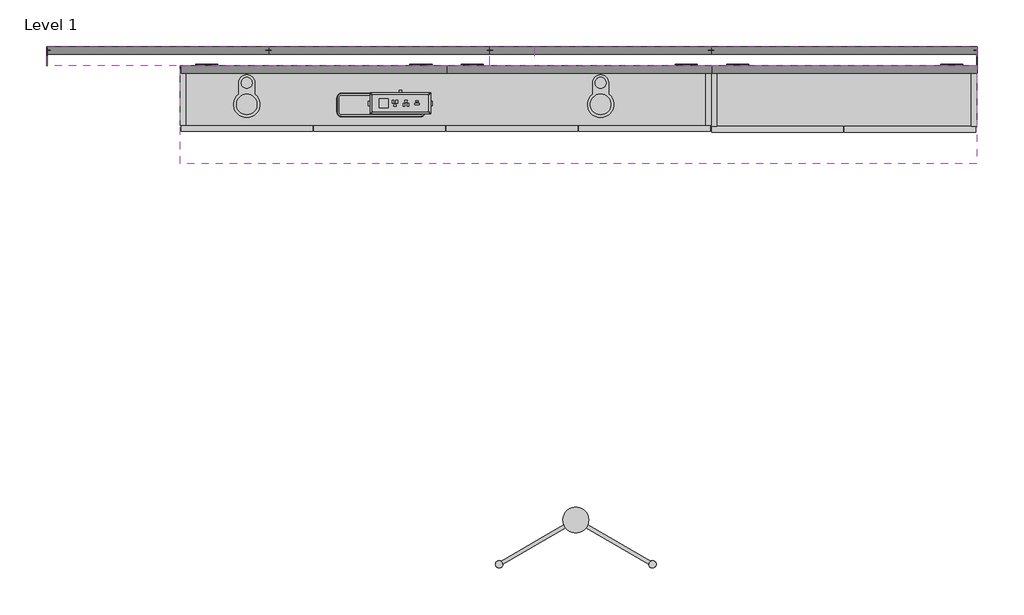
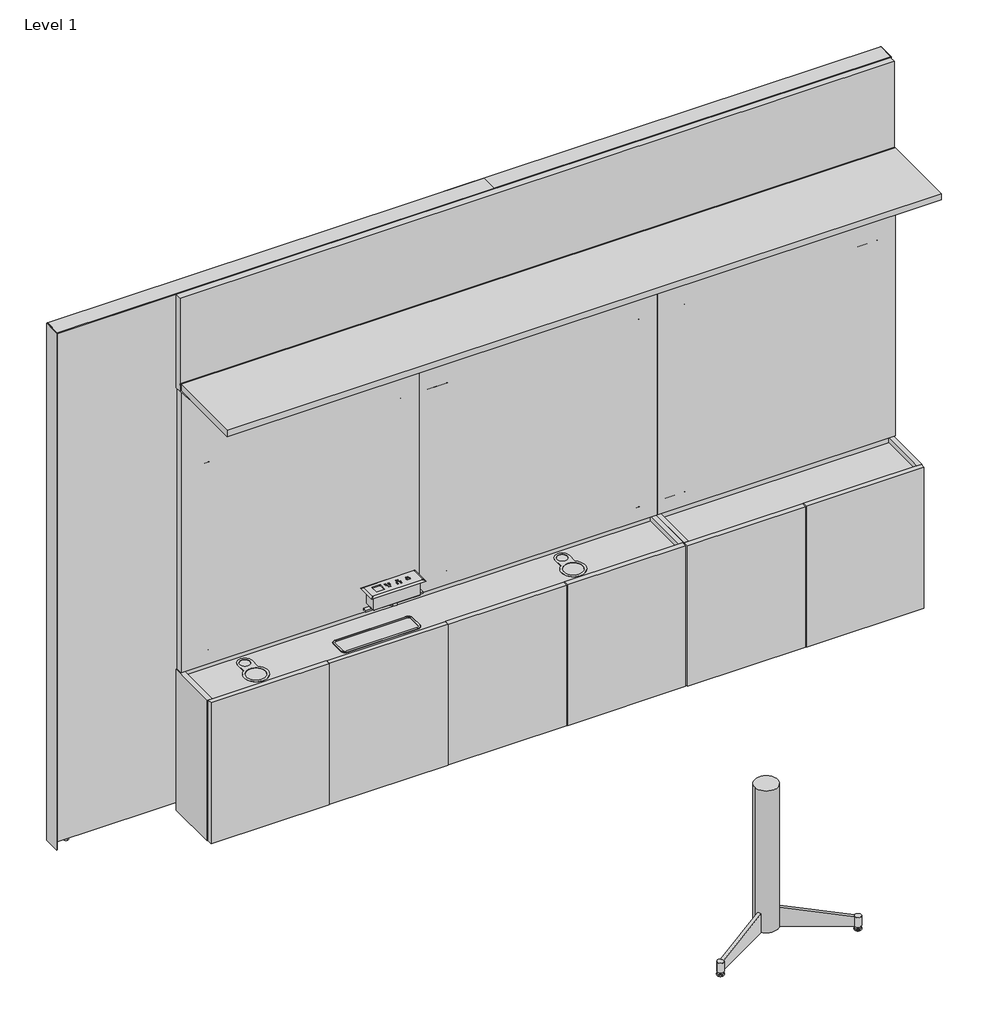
# One storey, incomplete: 16 furniture elements.
"""IFC4 building model written with IfcOpenShell, lengths in millimetres."""

from ifc_helpers import new_model, si_unit, origin, place, context, project, spatial, transform, mapped, element, save
from components import furniture_2dc1d840, furniture_e45f25e7, furniture_a181dc65, furniture_9a9e18b9, furniture_ab4901f7, furniture_62f48795, furniture_a84eccc4, furniture_95511676, furniture_b07222ba, in_surface_33791ff7, mp_base_71be33a4

model = new_model("IFC4")

# Units and contexts
model_context = context("Model", 3, world=origin())
ifc_project = project(units=[si_unit("LENGTHUNIT", "METRE", prefix="MILLI")], contexts=[model_context])

# Site, building, storey
site = spatial("IfcSite", under=ifc_project)
building = spatial("IfcBuilding", under=site)
storey = spatial("IfcBuildingStorey", under=building, Name="Level 1", Elevation=0.0)

# Furniture
placement = place(None, origin())
furniture_shape = furniture_2dc1d840(model_context)
element("IfcFurniture", 1, ObjectType="Geiger_GeigerOneCasegoods_UtilityCabinetForUseWithLDeskAccepts2Legs : Vertical Veneer 72Wx 8.875Dx 22.5H", at=placement, inside=storey, context=model_context, shape_type="MappedRepresentation", body=[
    mapped(furniture_shape, transform((152.5074168, 5309.5554629, 0.0), x_axis=(1.0, 0.0, 0.0), y_axis=(0.0, 1.0, 0.0), z_axis=(0.0, 0.0, 1.0))),
])
furniture_2_shape = furniture_e45f25e7(model_context)
element("IfcFurniture", 2, ObjectType="Geiger_GeigerOneCasegoods_UtilityCabinetForUseWithCredenzaDeskAccepts0Legs : Vertical Veneer 36Wx 8.875Dx 22.5H", at=placement, inside=storey, context=model_context, shape_type="MappedRepresentation", body=[
    mapped(furniture_2_shape, transform((1981.3074168, 5306.3804629, 0.0), x_axis=(1.0, 0.0, 0.0), y_axis=(0.0, 1.0, 0.0), z_axis=(0.0, 0.0, 1.0))),
])
furniture_3_shape = furniture_a181dc65(model_context)
element("IfcFurniture", 3, ObjectType="Geiger_GeigerOneCasegoods_WallTopTrimSingleSidedWall : 66Wx2.625Dx0.125H", at=placement, inside=storey, context=model_context, shape_type="MappedRepresentation", body=[
    mapped(furniture_3_shape, transform((-304.7970466, 5341.3554629, 2108.708), x_axis=(1.0, 0.0, 0.0), y_axis=(0.0, 1.0, 0.0), z_axis=(0.0, 0.0, 1.0))),
])
element("IfcFurniture", 4, ObjectType="Geiger_GeigerOneCasegoods_WallTopTrimSingleSidedWall : 66Wx2.625Dx0.125H", at=placement, inside=storey, context=model_context, shape_type="MappedRepresentation", body=[
    mapped(furniture_3_shape, transform((1219.3074168, 5341.9054629, 2108.708), x_axis=(1.0, 0.0, 0.0), y_axis=(0.0, 1.0, 0.0), z_axis=(0.0, 0.0, 1.0))),
])
furniture_4_shape = furniture_9a9e18b9(model_context)
element("IfcFurniture", 5, ObjectType="Geiger_GeigerOneCasegoods_WallEndTrim : SingleSided 2.625Wx 0.125Dx 82.625H", at=placement, inside=storey, context=model_context, shape_type="MappedRepresentation", body=[
    mapped(furniture_4_shape, transform((2895.7074168, 5341.9054629, 12.7), x_axis=(1.0, 0.0, 0.0), y_axis=(0.0, 1.0, 0.0), z_axis=(0.0, 0.0, 1.0))),
])
element("IfcFurniture", 6, ObjectType="Geiger_GeigerOneCasegoods_WallEndTrim : SingleSided 2.625Wx 0.125Dx 82.625H", at=placement, inside=storey, context=model_context, shape_type="MappedRepresentation", body=[
    mapped(furniture_4_shape, transform((-307.9720466, 5341.9054629, 12.7), x_axis=(1.0, 0.0, 0.0), y_axis=(0.0, 1.0, 0.0), z_axis=(0.0, 0.0, 1.0))),
])
furniture_5_shape = furniture_ab4901f7(model_context)
element("IfcFurniture", 7, ObjectType="Geiger_GeigerOneCasegoods_WallFrameStandardApplication : 30Wx1Dx82.5H", at=placement, inside=storey, context=model_context, shape_type="MappedRepresentation", body=[
    mapped(furniture_5_shape, transform((1219.2529534, 5375.2429629, 0.0), x_axis=(1.0, 0.0, 0.0), y_axis=(0.0, 1.0, 0.0), z_axis=(0.0, 0.0, 1.0))),
])
furniture_6_shape = furniture_62f48795(model_context)
element("IfcFurniture", 8, ObjectType="Geiger_GeigerOneCasegoods_WallFrameStandardApplication : 36Wx1Dx82.5H", at=placement, inside=storey, context=model_context, shape_type="MappedRepresentation", body=[
    mapped(furniture_6_shape, transform((1981.2529534, 5375.2429629, 0.0), x_axis=(1.0, 0.0, 0.0), y_axis=(0.0, 1.0, 0.0), z_axis=(0.0, 0.0, 1.0))),
])
furniture_7_shape = furniture_a84eccc4(model_context)
element("IfcFurniture", 9, ObjectType="Geiger_GeigerOneCasegoods_WallFrameStandardApplication : 30Wx1Dx82.5H", at=placement, inside=storey, context=model_context, shape_type="MappedRepresentation", body=[
    mapped(furniture_7_shape, transform((1219.2529534, 5375.2429629, 0.0), x_axis=(-1.0, 0.0, 0.0), y_axis=(0.0, -1.0, 0.0), z_axis=(0.0, 0.0, 1.0))),
])
element("IfcFurniture", 10, ObjectType="Geiger_GeigerOneCasegoods_WallFrameStandardApplication : 30Wx1Dx82.5H", at=placement, inside=storey, context=model_context, shape_type="MappedRepresentation", body=[
    mapped(furniture_7_shape, transform((457.2029534, 5375.2429629, 0.0), x_axis=(-1.0, 0.0, 0.0), y_axis=(0.0, -1.0, 0.0), z_axis=(0.0, 0.0, 1.0))),
])
furniture_8_shape = furniture_95511676(model_context)
element("IfcFurniture", 11, ObjectType="Geiger_GeigerOneCasegoods_WallTileAcceptsTileAboveFabric : Fabric 36Wx 1.25Dx 45H", at=placement, inside=storey, context=model_context, shape_type="MappedRepresentation", body=[
    mapped(furniture_8_shape, transform((1984.4824168, 5314.9687629, 586.7908), x_axis=(1.0, 0.0, 0.0), y_axis=(0.0, 1.0, 0.0), z_axis=(0.0, 0.0, 1.0))),
])
element("IfcFurniture", 12, ObjectType="Geiger_GeigerOneCasegoods_WallTileAcceptsTileAboveFabric : Fabric 36Wx 1.25Dx 45H", at=placement, inside=storey, context=model_context, shape_type="MappedRepresentation", body=[
    mapped(furniture_8_shape, transform((1070.0279534, 5314.9687629, 586.7908), x_axis=(1.0, 0.0, 0.0), y_axis=(0.0, 1.0, 0.0), z_axis=(0.0, 0.0, 1.0))),
])
element("IfcFurniture", 13, ObjectType="Geiger_GeigerOneCasegoods_WallTileAcceptsTileAboveFabric : Fabric 36Wx 1.25Dx 45H", at=placement, inside=storey, context=model_context, shape_type="MappedRepresentation", body=[
    mapped(furniture_8_shape, transform((155.6279534, 5314.9687629, 586.7908), x_axis=(1.0, 0.0, 0.0), y_axis=(0.0, 1.0, 0.0), z_axis=(0.0, 0.0, 1.0))),
])
furniture_9_shape = furniture_b07222ba(model_context)
element("IfcFurniture", 14, ObjectType="Geiger_GeigerOneCasegoods_OverheadStorageSingleShelfFullBackPanel : Vertical Veneer 108Wx 13.375Dx 14.875H", at=placement, inside=storey, context=model_context, shape_type="MappedRepresentation", body=[
    mapped(furniture_9_shape, transform((152.4529534, 5315.9632565, 1728.724), x_axis=(1.0, 0.0, 0.0), y_axis=(0.0, 1.0, 0.0), z_axis=(0.0, 0.0, 1.0))),
])
in_surface_shape = in_surface_33791ff7(model_context)
element("IfcFurniture", 15, ObjectType="Geiger_GeigerOneCasegoods_PowerComponent2PowerOutlets1USBA1USBC : In Surface", at=placement, inside=storey, context=model_context, shape_type="MappedRepresentation", body=[
    mapped(in_surface_shape, transform((911.0455931, 5179.9460825, 741.8785832), x_axis=(1.0, 0.0, 0.0), y_axis=(0.0, 1.0, 0.0), z_axis=(0.0, 0.0, 1.0))),
])
mp_base_shape = mp_base_71be33a4(model_context)
element("IfcFurniture", 16, ObjectType="Geiger_GeigerOneCasegoods_LegSupport : MP Base", at=placement, inside=storey, context=model_context, shape_type="MappedRepresentation", body=[
    mapped(mp_base_shape, transform((1515.2566762, 3744.4187342, 3.0120774), x_axis=(1.0, 0.0, 0.0), y_axis=(0.0, 1.0, 0.0), z_axis=(0.0, 0.0, 1.0))),
])

save(model, "model.ifc")
